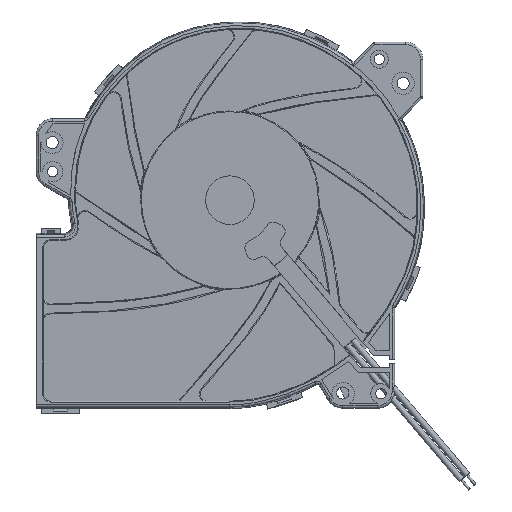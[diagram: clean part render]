
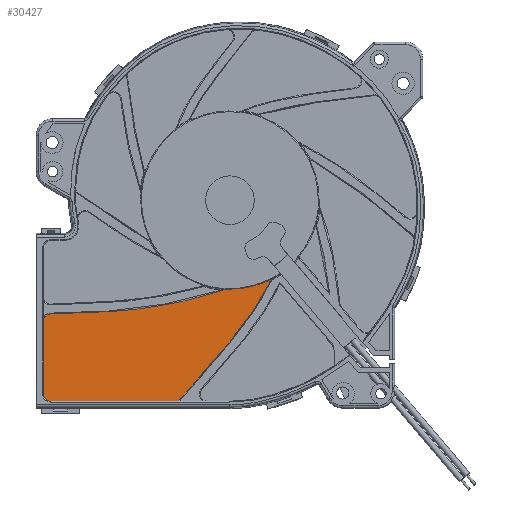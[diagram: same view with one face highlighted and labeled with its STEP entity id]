
A CAD part, front view. The second image highlights one B-rep face of the part: STEP entity #30427.
In plain terms, the highlighted planar face has unit normal (0, -1, 0).
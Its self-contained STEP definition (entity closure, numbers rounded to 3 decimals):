
#10185=CARTESIAN_POINT('',(15.995,-19.8,-33.661));
#10186=DIRECTION('',(0.,1.,0.));
#10187=DIRECTION('',(-0.429,0.,0.903));
#10188=AXIS2_PLACEMENT_3D('',#10185,#10186,#10187);
#10190=CARTESIAN_POINT('',(16.443,-19.8,-33.883));
#10191=CARTESIAN_POINT('',(16.279,-19.8,-34.212));
#10192=CARTESIAN_POINT('',(14.443,-19.8,-37.854));
#10193=CARTESIAN_POINT('',(10.096,-19.8,-45.397));
#10194=CARTESIAN_POINT('',(1.228,-19.8,-57.105));
#10195=CARTESIAN_POINT('',(-9.576,-19.8,-69.81));
#10196=CARTESIAN_POINT('',(-17.58,-19.8,-78.741));
#10197=CARTESIAN_POINT('',(-21.341,-19.8,-82.96));
#10199=DIRECTION('',(-1.,0.,0.));
#10200=VECTOR('',#10199,52.569);
#10201=CARTESIAN_POINT('',(-21.341,-19.8,-82.96));
#10202=LINE('',#10201,#10200);
#10203=CARTESIAN_POINT('',(-73.91,-19.8,-79.96));
#10204=DIRECTION('',(0.,1.,0.));
#10205=DIRECTION('',(0.,0.,-1.));
#10206=AXIS2_PLACEMENT_3D('',#10203,#10204,#10205);
#10208=DIRECTION('',(0.,0.,1.));
#10209=VECTOR('',#10208,30.069);
#10210=CARTESIAN_POINT('',(-76.91,-19.8,-79.96));
#10211=LINE('',#10210,#10209);
#10212=CARTESIAN_POINT('',(-73.91,-19.8,-49.891));
#10213=DIRECTION('',(0.,1.,0.));
#10214=DIRECTION('',(-1.,0.,0.));
#10215=AXIS2_PLACEMENT_3D('',#10212,#10213,#10214);
#10217=CARTESIAN_POINT('',(-74.013,-19.8,-46.893));
#10218=CARTESIAN_POINT('',(-71.632,-19.8,-46.811));
#10219=CARTESIAN_POINT('',(-62.269,-19.8,-46.515));
#10220=CARTESIAN_POINT('',(-47.382,-19.8,-46.136));
#10221=CARTESIAN_POINT('',(-25.569,-19.8,-43.344));
#10222=CARTESIAN_POINT('',(-10.934,-19.8,-39.783));
#10223=CARTESIAN_POINT('',(-1.647,-19.8,-36.762));
#10225=CARTESIAN_POINT('',(-1.493,-19.8,-37.238));
#10226=DIRECTION('',(0.,1.,0.));
#10227=DIRECTION('',(-0.309,0.,0.951));
#10228=AXIS2_PLACEMENT_3D('',#10225,#10226,#10227);
#10230=CARTESIAN_POINT('',(0.,-19.8,0.));
#10231=DIRECTION('',(0.,-1.,0.));
#10232=DIRECTION('',(-0.04,0.,-0.999));
#10233=AXIS2_PLACEMENT_3D('',#10230,#10231,#10232);
#13488=CARTESIAN_POINT('',(-73.91,-19.8,-82.96));
#13489=VERTEX_POINT('',#13488);
#13490=CARTESIAN_POINT('',(-21.341,-19.8,-82.96));
#13491=VERTEX_POINT('',#13490);
#13568=CARTESIAN_POINT('',(15.78,-19.8,-33.209));
#13569=VERTEX_POINT('',#13568);
#13570=CARTESIAN_POINT('',(-1.473,-19.8,-36.738));
#13571=VERTEX_POINT('',#13570);
#13629=CARTESIAN_POINT('',(16.443,-19.8,-33.883));
#13630=VERTEX_POINT('',#13629);
#13654=CARTESIAN_POINT('',(-76.91,-19.8,-79.96));
#13655=VERTEX_POINT('',#13654);
#13656=CARTESIAN_POINT('',(-76.91,-19.8,-49.891));
#13657=VERTEX_POINT('',#13656);
#13658=CARTESIAN_POINT('',(-74.013,-19.8,-46.893));
#13659=VERTEX_POINT('',#13658);
#13660=VERTEX_POINT('',#10223);
#30407=CARTESIAN_POINT('',(0.,-19.8,0.));
#30408=DIRECTION('',(0.,-1.,0.));
#30409=DIRECTION('',(1.,0.,0.));
#30410=AXIS2_PLACEMENT_3D('',#30407,#30408,#30409);
#30411=PLANE('',#30410);
#30412=ORIENTED_EDGE('',*,*,#30398,.T.);
#30414=ORIENTED_EDGE('',*,*,#30413,.T.);
#30415=ORIENTED_EDGE('',*,*,#29972,.T.);
#30416=ORIENTED_EDGE('',*,*,#30195,.T.);
#30417=ORIENTED_EDGE('',*,*,#30212,.T.);
#30419=ORIENTED_EDGE('',*,*,#30418,.T.);
#30421=ORIENTED_EDGE('',*,*,#30420,.T.);
#30423=ORIENTED_EDGE('',*,*,#30422,.T.);
#30424=ORIENTED_EDGE('',*,*,#30385,.T.);
#30425=EDGE_LOOP('',(#30412,#30414,#30415,#30416,#30417,#30419,#30421,#30423,
#30424));
#30426=FACE_OUTER_BOUND('',#30425,.F.);
#30427=ADVANCED_FACE('',(#30426),#30411,.T.);
#10189=CIRCLE('',#10188,0.5);
#10198=B_SPLINE_CURVE_WITH_KNOTS('',3,(#10190,#10191,#10192,#10193,#10194,
#10195,#10196,#10197),.UNSPECIFIED.,.F.,.F.,(4,1,1,1,1,4),(0.,
0.018,0.199,0.425,0.73,1.),
.UNSPECIFIED.);
#10207=CIRCLE('',#10206,3.);
#10216=CIRCLE('',#10215,3.);
#10224=B_SPLINE_CURVE_WITH_KNOTS('',3,(#10217,#10218,#10219,#10220,#10221,
#10222,#10223),.UNSPECIFIED.,.F.,.F.,(4,1,1,1,4),(0.,0.099,
0.387,0.61,1.),.UNSPECIFIED.);
#10229=CIRCLE('',#10228,0.5);
#10234=CIRCLE('',#10233,36.768);
#29972=EDGE_CURVE('',#13491,#13489,#10202,.T.);
#30195=EDGE_CURVE('',#13489,#13655,#10207,.T.);
#30212=EDGE_CURVE('',#13655,#13657,#10211,.T.);
#30385=EDGE_CURVE('',#13571,#13569,#10234,.T.);
#30398=EDGE_CURVE('',#13569,#13630,#10189,.T.);
#30413=EDGE_CURVE('',#13630,#13491,#10198,.T.);
#30418=EDGE_CURVE('',#13657,#13659,#10216,.T.);
#30420=EDGE_CURVE('',#13659,#13660,#10224,.T.);
#30422=EDGE_CURVE('',#13660,#13571,#10229,.T.);
